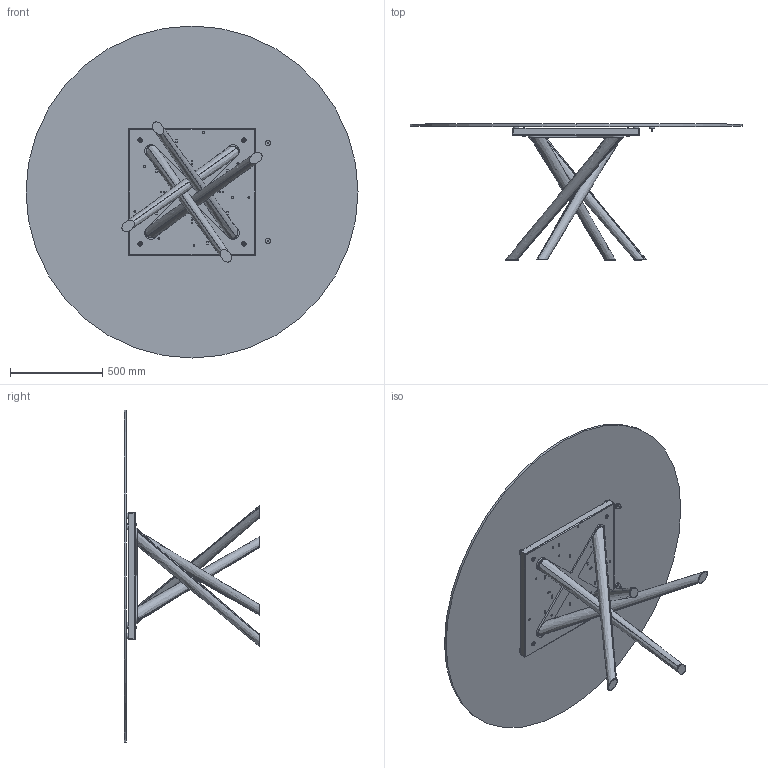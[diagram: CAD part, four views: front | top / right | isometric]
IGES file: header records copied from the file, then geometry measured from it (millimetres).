
Start section: SolidWorks IGES file using analytic representation for surfaces
Global section: file name: Y:\eforma\TECNICO\SOLIDWORKS\E-FORMA\1-TAVOLI\BALY\02 parts\BA13G.IGS; native system: SolidWorks 2022; preprocessor: SolidWorks 2022; author: eforma.tech; date: 240808.083854; units: millimetre
Bounding box: 1800 x 737 x 1800 mm (x, y, z)
Volume: 35268380.4 mm3; surface area: 7992833.5 mm2
Topology: 43 solids, 43 shells, 945 faces, 2281 edges, 1414 vertices
Faces by surface type: revolution 539, plane 398, bspline 8
